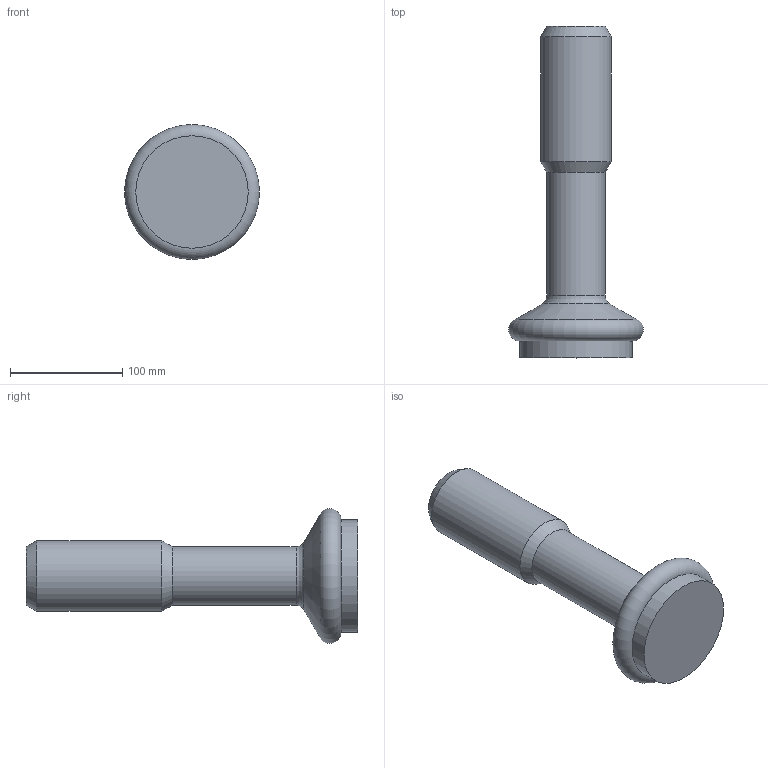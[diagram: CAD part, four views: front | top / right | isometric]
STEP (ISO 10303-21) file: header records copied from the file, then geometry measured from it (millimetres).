
FILE_DESCRIPTION(/* description */ ('Open CASCADE Model'),/* implementation_level */ '2;1');
FILE_NAME(/* name */ 'C:\Users\Alvis\Desktop\Workpiece simplified.stp',/* time_stamp */ '2019-06-27T14:50:04+03:00',/* author */ ('Alvis'),/* organization */ ('Open CASCADE'),/* preprocessor_version */ 'ST-DEVELOPER v17.2',/* originating_system */ 'Autodesk Inventor 2019',/* authorisation */ 'Unknown');
FILE_SCHEMA (('AUTOMOTIVE_DESIGN { 1 0 10303 214 3 1 1 }'));
Length unit declared in the file: metre
Products named in the file (1): Workpiece
Bounding box: 120 x 295.02 x 120 mm (x, y, z)
Volume: 1045864.3 mm3; surface area: 77140.1 mm2
Topology: 1 solids, 1 shells, 10 faces, 26 edges, 18 vertices
Faces by surface type: cylinder 3, cone 3, plane 2, torus 2
Full cylindrical faces by diameter (mm): 52 x1, 63 x1, 100 x1
Entity records: 367 total; most frequent: DIRECTION 68, CARTESIAN_POINT 55, ORIENTED_EDGE 52, AXIS2_PLACEMENT_3D 31, EDGE_CURVE 26, CIRCLE 20, VERTEX_POINT 18, FACE_OUTER_BOUND 10
